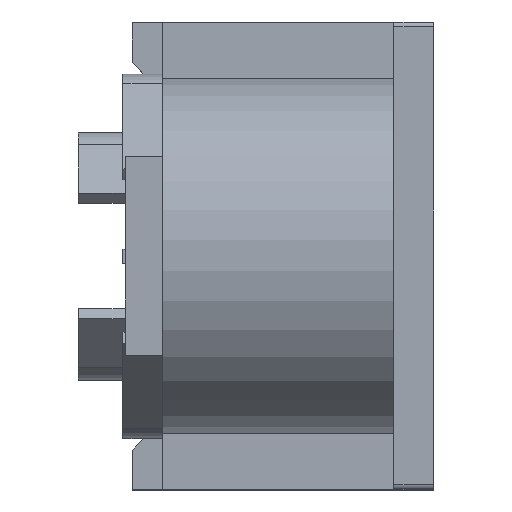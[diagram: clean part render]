
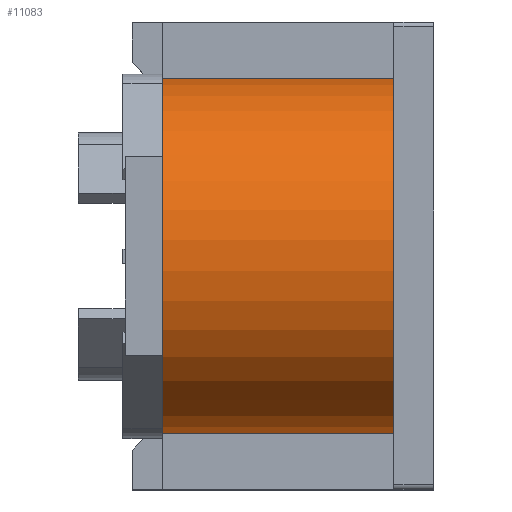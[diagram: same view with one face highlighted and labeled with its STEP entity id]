
A CAD part, top view. The second image highlights one B-rep face of the part: STEP entity #11083.
In plain terms, the highlighted cylindrical face has radius 7.6 mm (diameter 15.2 mm), a partial arc.
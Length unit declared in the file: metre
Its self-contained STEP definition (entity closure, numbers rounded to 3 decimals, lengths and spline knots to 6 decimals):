
#200=CIRCLE('',#15119,0.0076);
#201=CIRCLE('',#15120,0.0076);
#307=CYLINDRICAL_SURFACE('',#15118,0.0076);
#3178=ORIENTED_EDGE('',*,*,#5140,.T.);
#3179=ORIENTED_EDGE('',*,*,#5197,.T.);
#3180=ORIENTED_EDGE('',*,*,#5142,.F.);
#3181=ORIENTED_EDGE('',*,*,#5198,.F.);
#5140=EDGE_CURVE('',#6199,#6201,#7290,.T.);
#5142=EDGE_CURVE('',#6202,#6204,#7292,.T.);
#5197=EDGE_CURVE('',#6201,#6204,#200,.T.);
#5198=EDGE_CURVE('',#6199,#6202,#201,.T.);
#6199=VERTEX_POINT('',#21881);
#6201=VERTEX_POINT('',#21885);
#6202=VERTEX_POINT('',#21889);
#6204=VERTEX_POINT('',#21892);
#7290=LINE('',#21886,#8414);
#7292=LINE('',#21891,#8416);
#8414=VECTOR('',#17362,1.);
#8416=VECTOR('',#17366,1.);
#8994=EDGE_LOOP('',(#3178,#3179,#3180,#3181));
#9591=FACE_BOUND('',#8994,.T.);
#11083=ADVANCED_FACE('',(#9591),#307,.T.);
#15118=AXIS2_PLACEMENT_3D('',#21986,#17453,#17454);
#15119=AXIS2_PLACEMENT_3D('',#21987,#17455,#17456);
#15120=AXIS2_PLACEMENT_3D('',#21988,#17457,#17458);
#17362=DIRECTION('',(1.,0.,0.));
#17366=DIRECTION('',(1.,0.,0.));
#17453=DIRECTION('',(1.,0.,0.));
#17454=DIRECTION('',(0.,0.,-1.));
#17455=DIRECTION('',(-1.,0.,0.));
#17456=DIRECTION('',(0.,0.,1.));
#17457=DIRECTION('',(-1.,0.,0.));
#17458=DIRECTION('',(0.,0.,1.));
#21881=CARTESIAN_POINT('',(-0.062262,-0.059691,0.01685));
#21885=CARTESIAN_POINT('',(-0.052362,-0.059691,0.01685));
#21886=CARTESIAN_POINT('',(-0.083355,-0.059691,0.01685));
#21889=CARTESIAN_POINT('',(-0.062262,-0.045813,0.01685));
#21891=CARTESIAN_POINT('',(-0.083355,-0.045813,0.01685));
#21892=CARTESIAN_POINT('',(-0.052362,-0.045813,0.01685));
#21986=CARTESIAN_POINT('',(-0.095658,-0.052752,0.01995));
#21987=CARTESIAN_POINT('',(-0.052362,-0.052752,0.01995));
#21988=CARTESIAN_POINT('',(-0.062262,-0.052752,0.01995));
